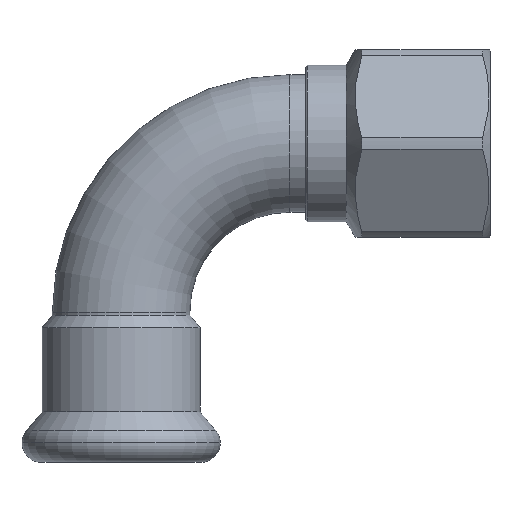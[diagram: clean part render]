
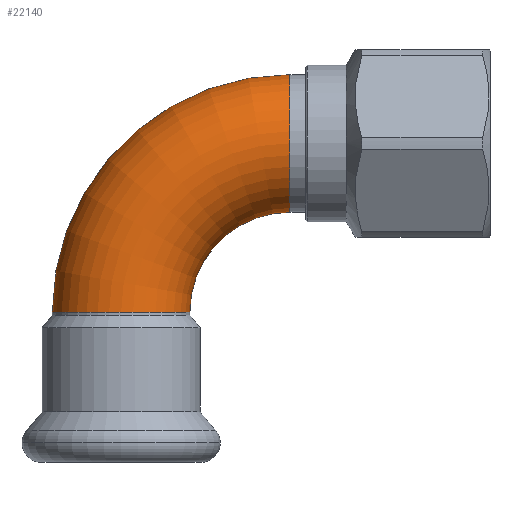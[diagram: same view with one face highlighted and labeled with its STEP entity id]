
A CAD part, top view. The second image highlights one B-rep face of the part: STEP entity #22140.
In plain terms, the highlighted toroidal (fillet/blend) face has major radius 27 mm and minor radius 11 mm.
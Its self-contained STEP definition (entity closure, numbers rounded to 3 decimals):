
#16790=CARTESIAN_POINT('',(-102.071,-225.006,
0.));
#16800=VERTEX_POINT('',#16790);
#16850=CARTESIAN_POINT('',(-113.071,-225.006,
0.));
#16860=DIRECTION('',(0.,-1.,0.));
#16870=DIRECTION('',(1.,0.,0.));
#16880=AXIS2_PLACEMENT_3D('',#16850,#16860,#16870);
#16890=CIRCLE('',#16880,11.);
#16900=CARTESIAN_POINT('',(-124.071,-225.006,
0.));
#16910=VERTEX_POINT('',#16900);
#17210=CARTESIAN_POINT('',(-86.071,-209.006,
0.));
#17220=VERTEX_POINT('',#17210);
#17300=CARTESIAN_POINT('',(-86.071,-187.006,
0.));
#17310=VERTEX_POINT('',#17300);
#17440=CARTESIAN_POINT('',(-86.071,-225.006,
0.));
#17450=DIRECTION('',(0.,0.,1.));
#17460=DIRECTION('',(0.,1.,0.));
#17470=AXIS2_PLACEMENT_3D('',#17440,#17450,#17460);
#17480=TOROIDAL_SURFACE('',#17470,27.,11.);
#17490=CARTESIAN_POINT('',(-86.071,-225.006,
0.));
#17500=DIRECTION('',(0.,0.,1.));
#17510=DIRECTION('',(0.,1.,0.));
#17520=AXIS2_PLACEMENT_3D('',#17490,#17500,#17510);
#17530=CIRCLE('',#17520,16.);
#17540=EDGE_CURVE('',#17220,#16800,#17530,.T.);
#17570=CARTESIAN_POINT('',(-86.071,-225.006,
0.));
#17580=DIRECTION('',(0.,0.,1.));
#17590=DIRECTION('',(0.,1.,0.));
#17600=AXIS2_PLACEMENT_3D('',#17570,#17580,#17590);
#17610=CIRCLE('',#17600,38.);
#17620=EDGE_CURVE('',#17310,#16910,#17610,.T.);
#22010=EDGE_CURVE('',#16800,#16910,#16890,.T.);
#22020=ORIENTED_EDGE('',*,*,#22010,.F.);
#22030=ORIENTED_EDGE('',*,*,#17620,.T.);
#22040=CARTESIAN_POINT('',(-86.071,-198.006,
0.));
#22050=DIRECTION('',(-1.,0.,0.));
#22060=DIRECTION('',(0.,-1.,0.));
#22070=AXIS2_PLACEMENT_3D('',#22040,#22050,#22060);
#22080=CIRCLE('',#22070,11.);
#22090=EDGE_CURVE('',#17220,#17310,#22080,.T.);
#22100=ORIENTED_EDGE('',*,*,#22090,.T.);
#22110=ORIENTED_EDGE('',*,*,#17540,.F.);
#22120=EDGE_LOOP('',(#22110,#22100,#22030,#22020));
#22130=FACE_OUTER_BOUND('',#22120,.T.);
#22140=ADVANCED_FACE('',(#22130),#17480,.T.);
